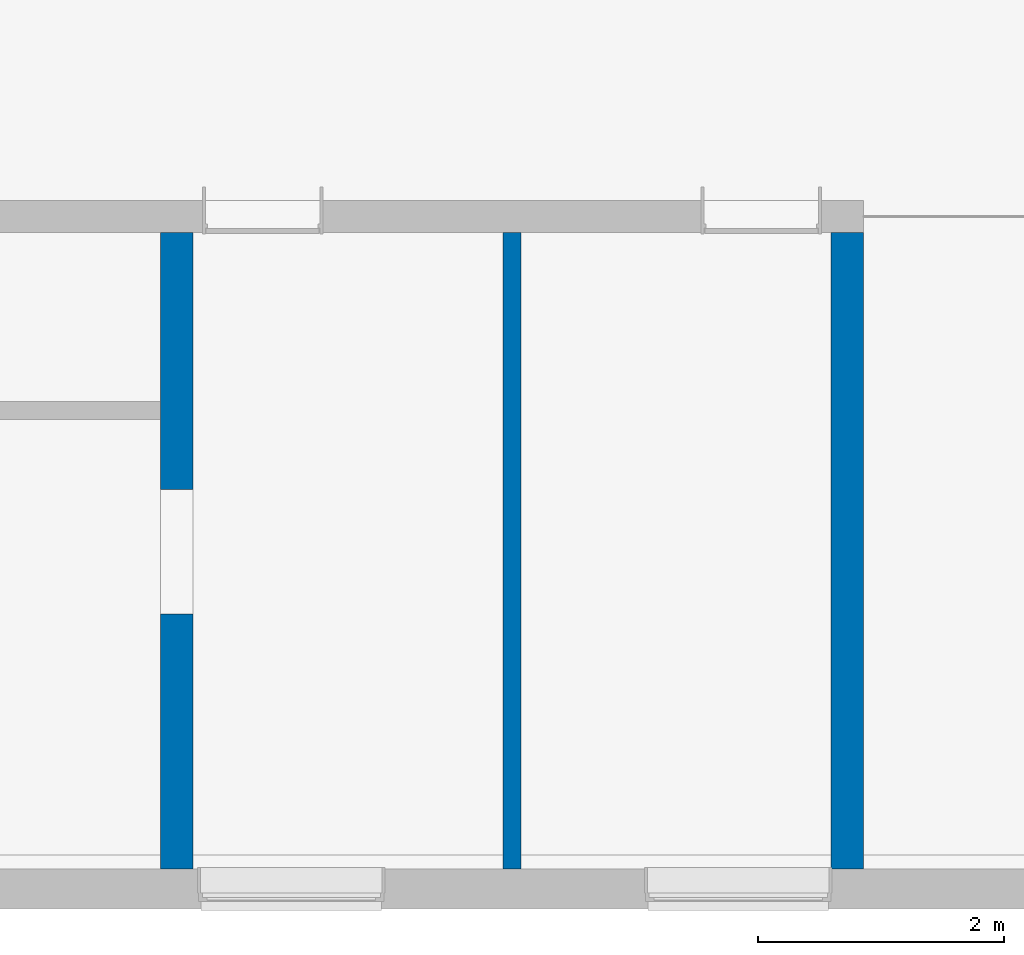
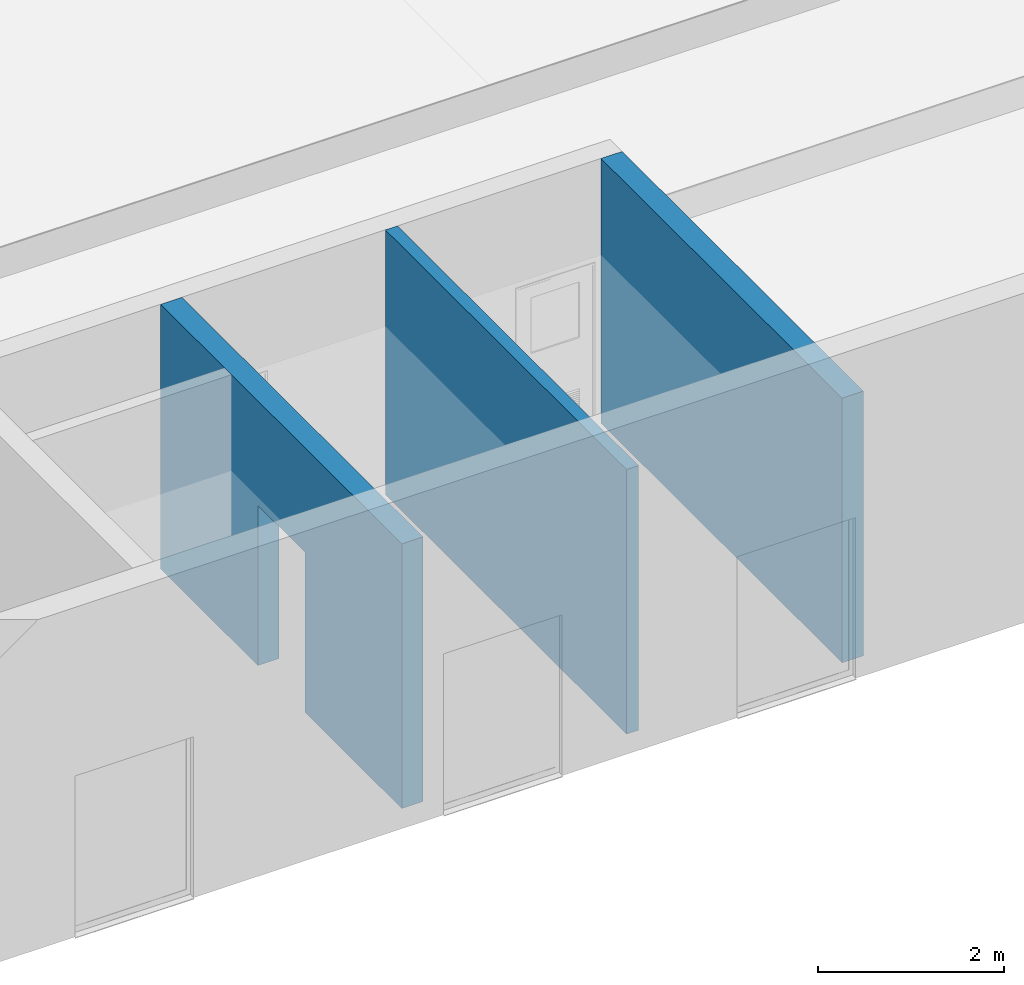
# One storey, part 8 of 11: 3 walls, 1 opening.
"""IFC4X3 building model written with IfcOpenShell, lengths in millimetres."""

import ifcopenshell
import ifcopenshell.guid

model = None  # the IFC model being written
_history = None  # IfcOwnerHistory: only IFC2X3 demands one
_inside = {}  # id of a spatial element -> (the spatial element, [elements in it])
_under = {}  # id of a project, library or spatial element -> (it, [spatial elements below it])
_declared = {}  # id of a project -> (the project, [libraries it declares])
_typed = {}  # id of a type object -> (the type object, [elements of that type])
_made_of = {}  # id of a material, layer set ... -> (it, [elements and type objects made of it])


def new_model(schema):
    """Start an empty IFC model of exactly this schema.

    Asked for "IFC4X3", IfcOpenShell would pick the latest addendum, in which some entities
    have other attributes; the version numbers below select the first issue.
    IFC2X3 requires an IfcOwnerHistory on every rooted entity: one is made here for all.
    """
    global model, _history
    if schema == "IFC4X3":
        model = ifcopenshell.file(schema_version=(4, 3, 0, 0))
    else:
        model = ifcopenshell.file(schema=schema)
    _inside.clear()
    _under.clear()
    _declared.clear()
    _typed.clear()
    _made_of.clear()
    _history = None
    if model.schema == "IFC2X3":
        org = make("IfcOrganization", Name="unknown")
        user = make(
            "IfcPersonAndOrganization",
            ThePerson=make("IfcPerson", FamilyName="unknown"),
            TheOrganization=org,
        )
        app = make(
            "IfcApplication",
            ApplicationDeveloper=org,
            Version="unknown",
            ApplicationFullName="unknown",
            ApplicationIdentifier="unknown",
        )
        _history = make(
            "IfcOwnerHistory",
            OwningUser=user,
            OwningApplication=app,
            ChangeAction="ADDED",
            CreationDate=0,
        )
    return model


def make(cls, **values):
    """One entity of the class cls with the attributes given. An attribute that is None is left unset."""
    return model.create_entity(
        cls, **{name: value for name, value in values.items() if value is not None}
    )


def entity(cls, *values):
    """Any entity or typed value of the class cls, its attributes in the order of the schema. None: left unset."""
    e = model.create_entity(cls)
    for i, value in enumerate(values):
        if value is not None:
            e[i] = value
    return e


def rooted(cls, **values):
    """An entity with a GlobalId (a new one), such as an element, a storey or a relation."""
    return make(cls, GlobalId=ifcopenshell.guid.new(), OwnerHistory=_history, **values)


def si_unit(unit_type, name, prefix=None):
    """IfcSIUnit, for example si_unit("LENGTHUNIT", "METRE", prefix="MILLI")."""
    return make("IfcSIUnit", UnitType=unit_type, Prefix=prefix, Name=name)


def converted_unit(unit_type, name, factor, base, dimensions=None, offset=None):
    """IfcConversionBasedUnit, such as the inch: factor (a typed value) times the base unit."""
    return make(
        "IfcConversionBasedUnit"
        if offset is None
        else "IfcConversionBasedUnitWithOffset",
        ConversionOffset=offset,
        Dimensions=None
        if dimensions is None
        else entity("IfcDimensionalExponents", *dimensions),
        UnitType=unit_type,
        Name=name,
        ConversionFactor=make(
            "IfcMeasureWithUnit", ValueComponent=factor, UnitComponent=base
        ),
    )


def derived_unit(unit_type, elements):
    """IfcDerivedUnit: a product of units, each with its exponent."""
    return make(
        "IfcDerivedUnit",
        Elements=[
            make("IfcDerivedUnitElement", Unit=unit, Exponent=power)
            for unit, power in elements
        ],
        UnitType=unit_type,
    )


def assignment(units):
    """IfcUnitAssignment: the units of a project."""
    return None if units is None else make("IfcUnitAssignment", Units=units)


def point(xyz):
    """IfcCartesianPoint."""
    return None if xyz is None else make("IfcCartesianPoint", Coordinates=xyz)


def direction(xyz):
    """IfcDirection."""
    return None if xyz is None else make("IfcDirection", DirectionRatios=xyz)


def frame(location, z_axis=None, x_axis=None):
    """IfcAxis2Placement3D, a coordinate frame: its origin and axes. An axis left out is left unset."""
    return make(
        "IfcAxis2Placement3D",
        Location=point(location),
        Axis=direction(z_axis),
        RefDirection=direction(x_axis),
    )


def frame_2d(location, x_axis=None):
    """IfcAxis2Placement2D, a coordinate frame in the plane: its origin and x axis."""
    return make(
        "IfcAxis2Placement2D", Location=point(location), RefDirection=direction(x_axis)
    )


def origin():
    """The frame at (0, 0, 0) with its axes left unset."""
    return frame((0.0, 0.0, 0.0))


def place(relative_to, where):
    """IfcLocalPlacement: puts the frame where relative to a parent placement (None: the world)."""
    return make(
        "IfcLocalPlacement", PlacementRelTo=relative_to, RelativePlacement=where
    )


def context(
    kind, dimensions, precision=None, world=None, true_north=None, identifier=None
):
    """IfcGeometricRepresentationContext, for example the 3D "Model" context."""
    return make(
        "IfcGeometricRepresentationContext",
        ContextIdentifier=identifier,
        ContextType=kind,
        CoordinateSpaceDimension=dimensions,
        Precision=precision,
        WorldCoordinateSystem=world,
        TrueNorth=true_north,
    )


def subcontext(parent, identifier, kind, view, scale=None):
    """IfcGeometricRepresentationSubContext, for example "Body" below "Model"."""
    return make(
        "IfcGeometricRepresentationSubContext",
        ContextIdentifier=identifier,
        ContextType=kind,
        ParentContext=parent,
        TargetScale=scale,
        TargetView=view,
    )


def project(units=None, contexts=None):
    """IfcProject with its units and contexts."""
    return rooted(
        "IfcProject",
        Name="project",
        RepresentationContexts=contexts,
        UnitsInContext=assignment(units),
    )


def spatial(cls, under=None, at=None, **own):
    """A site, building, storey or space (cls), placed at a placement, below another one or the project."""
    s = rooted(cls, ObjectPlacement=at, **own)
    if under is not None:
        _under.setdefault(under.id(), (under, []))[1].append(s)
    return s


def profile(cls, at=None, kind="AREA", **sizes):
    """A parametric profile (cls). Its sizes go by their IFC names, for example OverallWidth=200.0."""
    return make(cls, ProfileType=kind, Position=at, **sizes)


def rectangle(**sizes):
    """IfcRectangleProfileDef."""
    return profile("IfcRectangleProfileDef", **sizes)


def extrude(swept, where, along, depth):
    """IfcExtrudedAreaSolid: the profile swept, set in the frame where, extruded along a direction by depth."""
    return make(
        "IfcExtrudedAreaSolid",
        SweptArea=swept,
        Position=where,
        ExtrudedDirection=direction(along),
        Depth=depth,
    )


def shape(context_of_items, identifier, shape_type, items):
    """IfcShapeRepresentation: the items that make up one representation, for example the "Body"."""
    return make(
        "IfcShapeRepresentation",
        ContextOfItems=context_of_items,
        RepresentationIdentifier=identifier,
        RepresentationType=shape_type,
        Items=items,
    )


def material(Name=None, Category=None):
    """IfcMaterial."""
    return make("IfcMaterial", Name=Name, Category=Category)


def layer(
    of_material, thickness, ventilated=None, Name=None, Category=None, Priority=None
):
    """IfcMaterialLayer: one layer of a wall or slab, of a material (None: an air gap)."""
    return make(
        "IfcMaterialLayer",
        Material=of_material,
        LayerThickness=thickness,
        IsVentilated=ventilated,
        Name=Name,
        Category=Category,
        Priority=Priority,
    )


def layer_set(layers, Name=None):
    """IfcMaterialLayerSet."""
    return make("IfcMaterialLayerSet", MaterialLayers=layers, LayerSetName=Name)


def made_of(thing, what):
    """Note that an element or type object is made of a material, layer set ...; save() writes the relation."""
    if what is not None:
        _made_of.setdefault(what.id(), (what, []))[1].append(thing)
    return thing


def type_object(cls, material=None, **own):
    """A type object (cls), such as IfcWallType, which elements share."""
    return made_of(rooted(cls, **own), material)


def element(
    cls,
    number,
    at=None,
    inside=None,
    cuts=None,
    type_object=None,
    material=None,
    context=None,
    identifier="Body",
    shape_type=None,
    held_by="IfcProductDefinitionShape",
    body=None,
    shapes=None,
    **own,
):
    """One element of the class cls, such as IfcWall. Its Tag is "e" and its number.

    at: its placement. inside: the storey or other place that contains it. cuts: it is an
    opening in that element (IfcRelVoidsElement). A single representation is given by context,
    identifier, shape_type and body (its items); several are given by shapes. held_by: the class
    of the entity that holds the representations. save() writes the other relations.
    """
    e = rooted(cls, Tag="e%d" % number, ObjectPlacement=at, **own)
    if body is not None:
        shapes = [shape(context, identifier, shape_type, body)]
    if shapes is not None:
        e.Representation = make(held_by, Representations=shapes)
    if inside is not None:
        _inside.setdefault(inside.id(), (inside, []))[1].append(e)
    if cuts is not None:
        rooted(
            "IfcRelVoidsElement", RelatingBuildingElement=cuts, RelatedOpeningElement=e
        )
    if type_object is not None:
        _typed.setdefault(type_object.id(), (type_object, []))[1].append(e)
    return made_of(e, material)


def aggregate(whole, parts):
    """IfcRelAggregates: a whole, such as a stair, and the parts it consists of."""
    return rooted("IfcRelAggregates", RelatingObject=whole, RelatedObjects=parts)


def save(model, path):
    """Write the relations noted so far, then the file.

    IfcRelAggregates (storeys below a building ...), IfcRelContainedInSpatialStructure (elements
    in a storey), IfcRelDefinesByType, IfcRelAssociatesMaterial and IfcRelDeclares: one each for
    every whole, place, type object, material and project.
    """
    for whole, parts in _under.values():
        aggregate(whole, parts)
    for where, things in _inside.values():
        rooted(
            "IfcRelContainedInSpatialStructure",
            RelatedElements=things,
            RelatingStructure=where,
        )
    for kind, things in _typed.values():
        rooted("IfcRelDefinesByType", RelatedObjects=things, RelatingType=kind)
    for what, things in _made_of.values():
        rooted("IfcRelAssociatesMaterial", RelatedObjects=things, RelatingMaterial=what)
    for by, libraries in _declared.values():
        rooted("IfcRelDeclares", RelatingContext=by, RelatedDefinitions=libraries)
    model.write(path)


model = new_model("IFC4X3")

# Units and contexts
model_context = context("Model", 3, precision=0.01, world=origin(), true_north=direction((6.12303176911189e-17, 1.0)))
body_context = subcontext(model_context, "Body", "Model", "MODEL_VIEW")
ifc_project = project(units=[si_unit("LENGTHUNIT", "METRE", prefix="MILLI"), si_unit("AREAUNIT", "SQUARE_METRE"), si_unit("VOLUMEUNIT", "CUBIC_METRE"), converted_unit("PLANEANGLEUNIT", "DEGREE", entity("IfcPlaneAngleMeasure", 0.0174532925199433), si_unit("PLANEANGLEUNIT", "RADIAN"), dimensions=[0, 0, 0, 0, 0, 0, 0]), si_unit("MASSUNIT", "GRAM", prefix="KILO"), derived_unit("MASSDENSITYUNIT", [(si_unit("MASSUNIT", "GRAM", prefix="KILO"), 1), (si_unit("LENGTHUNIT", "METRE"), -3)]), derived_unit("IONCONCENTRATIONUNIT", [(si_unit("MASSUNIT", "GRAM", prefix="KILO"), 1), (si_unit("LENGTHUNIT", "METRE"), -3)]), derived_unit("MOMENTOFINERTIAUNIT", [(si_unit("LENGTHUNIT", "METRE"), 4)]), si_unit("TIMEUNIT", "SECOND"), si_unit("FREQUENCYUNIT", "HERTZ"), si_unit("THERMODYNAMICTEMPERATUREUNIT", "DEGREE_CELSIUS"), derived_unit("THERMALTRANSMITTANCEUNIT", [(si_unit("MASSUNIT", "GRAM", prefix="KILO"), 1), (si_unit("THERMODYNAMICTEMPERATUREUNIT", "KELVIN"), -1), (si_unit("TIMEUNIT", "SECOND"), -3)]), derived_unit("THERMALCONDUCTANCEUNIT", [(si_unit("MASSUNIT", "GRAM", prefix="KILO"), 1), (si_unit("THERMODYNAMICTEMPERATUREUNIT", "KELVIN"), -1), (si_unit("TIMEUNIT", "SECOND"), -3), (si_unit("LENGTHUNIT", "METRE"), 1)]), derived_unit("VOLUMETRICFLOWRATEUNIT", [(si_unit("LENGTHUNIT", "METRE", prefix="DECI"), 3), (si_unit("TIMEUNIT", "SECOND"), -1)]), derived_unit("MASSFLOWRATEUNIT", [(si_unit("MASSUNIT", "GRAM", prefix="KILO"), 1), (si_unit("TIMEUNIT", "SECOND"), -1)]), derived_unit("ROTATIONALFREQUENCYUNIT", [(si_unit("TIMEUNIT", "SECOND"), -1)]), si_unit("ELECTRICCURRENTUNIT", "AMPERE"), si_unit("ELECTRICVOLTAGEUNIT", "VOLT"), si_unit("POWERUNIT", "WATT"), si_unit("FORCEUNIT", "NEWTON", prefix="KILO"), si_unit("ILLUMINANCEUNIT", "LUX"), si_unit("LUMINOUSFLUXUNIT", "LUMEN"), si_unit("LUMINOUSINTENSITYUNIT", "CANDELA"), si_unit("ENERGYUNIT", "JOULE"), derived_unit("USERDEFINED", [(si_unit("MASSUNIT", "GRAM", prefix="KILO"), -1), (si_unit("LENGTHUNIT", "METRE"), -2), (si_unit("TIMEUNIT", "SECOND"), 3), (si_unit("LUMINOUSFLUXUNIT", "LUMEN"), 1)]), derived_unit("USERDEFINED", [(si_unit("MASSUNIT", "GRAM", prefix="KILO"), 1), (si_unit("TIMEUNIT", "SECOND"), -3), (si_unit("LENGTHUNIT", "METRE"), 3), (si_unit("ELECTRICCURRENTUNIT", "AMPERE"), -2)]), derived_unit("SOUNDPOWERUNIT", [(si_unit("MASSUNIT", "GRAM", prefix="KILO"), 1), (si_unit("TIMEUNIT", "SECOND"), -3), (si_unit("LENGTHUNIT", "METRE"), 2)]), derived_unit("SOUNDPRESSUREUNIT", [(si_unit("MASSUNIT", "GRAM", prefix="KILO"), 1), (si_unit("LENGTHUNIT", "METRE"), -1), (si_unit("TIMEUNIT", "SECOND"), -2)]), derived_unit("LINEARVELOCITYUNIT", [(si_unit("LENGTHUNIT", "METRE"), 1), (si_unit("TIMEUNIT", "SECOND"), -1)]), si_unit("PRESSUREUNIT", "PASCAL"), derived_unit("USERDEFINED", [(si_unit("MASSUNIT", "GRAM", prefix="KILO"), 1), (si_unit("LENGTHUNIT", "METRE"), -2), (si_unit("TIMEUNIT", "SECOND"), -2)]), derived_unit("LINEARFORCEUNIT", [(si_unit("MASSUNIT", "GRAM", prefix="KILO"), 1), (si_unit("TIMEUNIT", "SECOND"), -2)]), derived_unit("PLANARFORCEUNIT", [(si_unit("MASSUNIT", "GRAM", prefix="KILO"), 1), (si_unit("LENGTHUNIT", "METRE"), -1), (si_unit("TIMEUNIT", "SECOND"), -2)]), derived_unit("SPECIFICHEATCAPACITYUNIT", [(si_unit("THERMODYNAMICTEMPERATUREUNIT", "KELVIN"), -1), (si_unit("LENGTHUNIT", "METRE"), 2), (si_unit("TIMEUNIT", "SECOND"), -2)]), derived_unit("HEATFLUXDENSITYUNIT", [(si_unit("MASSUNIT", "GRAM", prefix="KILO"), 1), (si_unit("TIMEUNIT", "SECOND"), -3)]), derived_unit("HEATINGVALUEUNIT", [(si_unit("LENGTHUNIT", "METRE"), 2), (si_unit("TIMEUNIT", "SECOND"), -2)]), derived_unit("VAPORPERMEABILITYUNIT", [(si_unit("LENGTHUNIT", "METRE"), -1), (si_unit("TIMEUNIT", "SECOND"), 1)]), derived_unit("DYNAMICVISCOSITYUNIT", [(si_unit("MASSUNIT", "GRAM", prefix="KILO"), 1), (si_unit("TIMEUNIT", "SECOND"), -1), (si_unit("LENGTHUNIT", "METRE"), -1)]), derived_unit("THERMALEXPANSIONCOEFFICIENTUNIT", [(si_unit("THERMODYNAMICTEMPERATUREUNIT", "KELVIN"), -1)]), derived_unit("MODULUSOFELASTICITYUNIT", [(si_unit("MASSUNIT", "GRAM", prefix="KILO"), 1), (si_unit("LENGTHUNIT", "METRE"), -1), (si_unit("TIMEUNIT", "SECOND"), -2)]), derived_unit("ISOTHERMALMOISTURECAPACITYUNIT", [(si_unit("MASSUNIT", "GRAM", prefix="KILO"), -1), (si_unit("LENGTHUNIT", "METRE"), 3)]), derived_unit("MOISTUREDIFFUSIVITYUNIT", [(si_unit("TIMEUNIT", "SECOND"), -1), (si_unit("LENGTHUNIT", "METRE"), 2)]), derived_unit("AREADENSITYUNIT", [(si_unit("MASSUNIT", "GRAM", prefix="KILO"), 1), (si_unit("LENGTHUNIT", "METRE"), 2)]), derived_unit("MASSPERLENGTHUNIT", [(si_unit("MASSUNIT", "GRAM", prefix="KILO"), 1), (si_unit("LENGTHUNIT", "METRE"), -1)]), derived_unit("THERMALRESISTANCEUNIT", [(si_unit("MASSUNIT", "GRAM", prefix="KILO"), -1), (si_unit("TIMEUNIT", "SECOND"), 3), (si_unit("THERMODYNAMICTEMPERATUREUNIT", "KELVIN"), 1)]), derived_unit("ACCELERATIONUNIT", [(si_unit("LENGTHUNIT", "METRE"), 1), (si_unit("TIMEUNIT", "SECOND"), -2)]), derived_unit("ANGULARVELOCITYUNIT", [(si_unit("TIMEUNIT", "SECOND"), -1), (si_unit("PLANEANGLEUNIT", "RADIAN"), 1)]), derived_unit("LINEARSTIFFNESSUNIT", [(si_unit("MASSUNIT", "GRAM", prefix="KILO"), 1), (si_unit("TIMEUNIT", "SECOND"), -2)]), derived_unit("WARPINGCONSTANTUNIT", [(si_unit("LENGTHUNIT", "METRE"), 6)]), derived_unit("LINEARMOMENTUNIT", [(si_unit("MASSUNIT", "GRAM", prefix="KILO"), 1), (si_unit("LENGTHUNIT", "METRE"), 1), (si_unit("TIMEUNIT", "SECOND"), -2)]), derived_unit("TORQUEUNIT", [(si_unit("MASSUNIT", "GRAM", prefix="KILO"), 1), (si_unit("LENGTHUNIT", "METRE"), 2), (si_unit("TIMEUNIT", "SECOND"), -2)])], contexts=[model_context])

# Site, building, storey
site_placement = place(None, origin())
site = spatial("IfcSite", under=ifc_project, at=site_placement, Name="Default", CompositionType="ELEMENT")
building_placement = place(site_placement, origin())
building = spatial("IfcBuilding", under=site, at=building_placement, Name="事務所ビル", CompositionType="ELEMENT")
storey_placement = place(building_placement, frame((0.0, 0.0, 8000.0)))
storey = spatial("IfcBuildingStorey", under=building, at=storey_placement, Name="3FL", CompositionType="ELEMENT", Elevation=8000.0)

# Wall
ifc_material_1 = material(Name="せっこうボード", Category="一般")
ifc_layer_1 = layer(ifc_material_1, 15.0, Name="せっこうボード", Category="一般")
ifc_material_2 = material(Name="合板", Category="一般")
ifc_layer_2 = layer(ifc_material_2, 12.0, Name="合板", Category="一般")
ifc_material_3 = material(Name="天然木材", Category="一般")
ifc_layer_3 = layer(ifc_material_3, 210.0, Name="天然木材", Category="一般")
ifc_layer_4 = layer(ifc_material_2, 12.0, Name="合板", Category="一般")
ifc_layer_5 = layer(ifc_material_1, 15.0, Name="せっこうボード", Category="一般")
ifc_layer_set_1 = layer_set([ifc_layer_1, ifc_layer_2, ifc_layer_3, ifc_layer_4, ifc_layer_5], Name="標準壁:GB-R15_構造用合板12_木210_構造用合板12_GB-R15")
wall_type_1 = type_object("IfcWallType", Name="標準壁:GB-R15_構造用合板12_木210_構造用合板12_GB-R15", PredefinedType="STANDARD", material=ifc_layer_set_1)
wall_1_placement = place(storey_placement, frame((38220.0, 147.0, 0.0), z_axis=(0.0, 0.0, 1.0), x_axis=(0.0, 1.0, 0.0)))
element("IfcWall", 1, at=wall_1_placement, inside=storey, type_object=wall_type_1, material=ifc_layer_set_1, Name="標準壁:GB-R15_構造用合板12_木210_構造用合板12_GB-R15", ObjectType="標準壁:GB-R15_構造用合板12_木210_構造用合板12_GB-R15", PredefinedType="NOTDEFINED", context=body_context, shape_type="SweptSolid", body=[
    extrude(rectangle(XDim=5181.00000000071, YDim=264.000000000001, at=frame_2d((2590.50000000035, 2.98427949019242e-13), x_axis=(-1.0, 0.0))), origin(), (0.0, 0.0, 1.0), 3470.0),
])

# Wall, opening
wall_2_placement = place(storey_placement, frame((32760.0, 147.0, 0.0), z_axis=(0.0, 0.0, 1.0), x_axis=(0.0, 1.0, 0.0)))
wall_2 = element("IfcWall", 2, at=wall_2_placement, inside=storey, type_object=wall_type_1, material=ifc_layer_set_1, Name="標準壁:GB-R15_構造用合板12_木210_構造用合板12_GB-R15", ObjectType="標準壁:GB-R15_構造用合板12_木210_構造用合板12_GB-R15", PredefinedType="NOTDEFINED", context=body_context, shape_type="SweptSolid", body=[
    extrude(rectangle(XDim=5181.00000000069, YDim=264.000000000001, at=frame_2d((2590.50000000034, -2.1316282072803e-13), x_axis=(1.0, 0.0))), origin(), (0.0, 0.0, 1.0), 3470.0),
])
opening_placement = place(wall_2_placement, frame((2074.49999999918, -132.0, 0.0)))
element("IfcOpeningElement", 3, at=opening_placement, cuts=wall_2, Name="ドア-開口部:1017 x 2100mm:1", PredefinedType="OPENING", context=body_context, shape_type="SweptSolid", body=[
    extrude(rectangle(XDim=2100.0, YDim=1017.0, at=frame_2d((1050.0, 508.5), x_axis=(-1.0, 0.0))), frame((0.0, 0.0, 0.0), z_axis=(0.0, 1.0, 0.0), x_axis=(0.0, 0.0, 1.0)), (0.0, 0.0, 1.0), 264.0),
])

# Wall
ifc_material_4 = material(Name="<Unnamed>")
ifc_layer_6 = layer(ifc_material_4, 15.0, Name="Layer")
ifc_layer_7 = layer(ifc_material_3, 120.0, Name="天然木材", Category="一般")
ifc_layer_8 = layer(ifc_material_4, 15.0, Name="Layer")
ifc_layer_set_2 = layer_set([ifc_layer_6, ifc_layer_7, ifc_layer_8], Name="標準壁:GB-R15_木120_GB-R15")
wall_type_2 = type_object("IfcWallType", Name="標準壁:GB-R15_木120_GB-R15", PredefinedType="STANDARD", material=ifc_layer_set_2)
wall_3_placement = place(storey_placement, frame((35490.0, 147.0, 0.0), z_axis=(0.0, 0.0, 1.0), x_axis=(0.0, 1.0, 0.0)))
element("IfcWall", 4, at=wall_3_placement, inside=storey, type_object=wall_type_2, material=ifc_layer_set_2, Name="標準壁:GB-R15_木120_GB-R15", ObjectType="標準壁:GB-R15_木120_GB-R15", PredefinedType="NOTDEFINED", context=body_context, shape_type="SweptSolid", body=[
    extrude(rectangle(XDim=5181.0000000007, YDim=150.000000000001, at=frame_2d((2590.50000000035, -2.06057393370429e-13), x_axis=(-1.0, 0.0))), origin(), (0.0, 0.0, 1.0), 3470.0),
])

save(model, "model.ifc")
